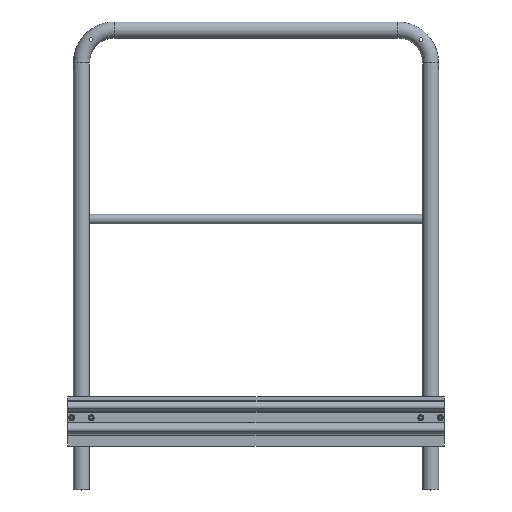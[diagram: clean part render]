
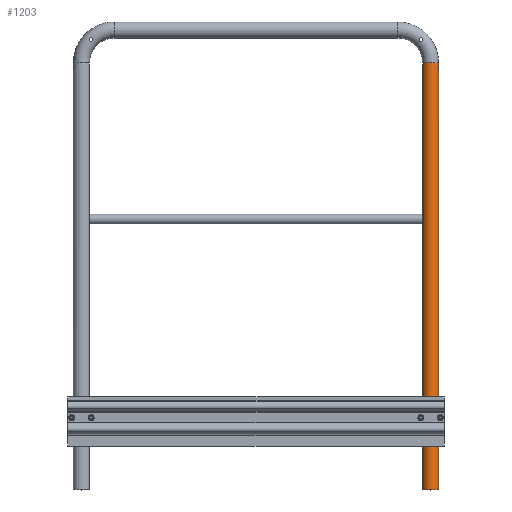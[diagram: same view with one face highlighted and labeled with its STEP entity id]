
A CAD part, top view. The second image highlights one B-rep face of the part: STEP entity #1203.
In plain terms, the highlighted cylindrical face has radius 21.2 mm (diameter 42.4 mm), a full revolution.
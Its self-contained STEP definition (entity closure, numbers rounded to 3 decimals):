
#327=CARTESIAN_POINT('',(902.526,1001.2,5.5));
#328=VERTEX_POINT('',#327);
#329=CARTESIAN_POINT('',(902.526,1001.2,5.5));
#330=CARTESIAN_POINT('',(902.526,1000.506,5.5));
#331=CARTESIAN_POINT('',(902.487,999.768,5.361));
#332=CARTESIAN_POINT('',(902.348,998.414,4.798));
#333=CARTESIAN_POINT('',(902.251,997.797,4.376));
#334=CARTESIAN_POINT('',(902.069,996.824,3.403));
#335=CARTESIAN_POINT('',(901.973,996.402,2.786));
#336=CARTESIAN_POINT('',(901.837,995.839,1.432));
#337=CARTESIAN_POINT('',(901.8,995.7,0.694));
#338=CARTESIAN_POINT('',(901.8,995.7,-0.694));
#339=CARTESIAN_POINT('',(901.837,995.839,-1.432));
#340=CARTESIAN_POINT('',(901.973,996.402,-2.786));
#341=CARTESIAN_POINT('',(902.069,996.824,-3.403));
#342=CARTESIAN_POINT('',(902.251,997.797,-4.376));
#343=CARTESIAN_POINT('',(902.348,998.414,-4.798));
#344=CARTESIAN_POINT('',(902.487,999.768,-5.361));
#345=CARTESIAN_POINT('',(902.526,1000.506,-5.5));
#346=CARTESIAN_POINT('',(902.526,1001.894,-5.5));
#347=CARTESIAN_POINT('',(902.487,1002.632,-5.361));
#348=CARTESIAN_POINT('',(902.348,1003.986,-4.798));
#349=CARTESIAN_POINT('',(902.251,1004.603,-4.376));
#350=CARTESIAN_POINT('',(902.069,1005.576,-3.403));
#351=CARTESIAN_POINT('',(901.973,1005.998,-2.786));
#352=CARTESIAN_POINT('',(901.837,1006.561,-1.432));
#353=CARTESIAN_POINT('',(901.8,1006.7,-0.694));
#354=CARTESIAN_POINT('',(901.8,1006.7,0.694));
#355=CARTESIAN_POINT('',(901.837,1006.561,1.432));
#356=CARTESIAN_POINT('',(901.973,1005.998,2.786));
#357=CARTESIAN_POINT('',(902.069,1005.576,3.403));
#358=CARTESIAN_POINT('',(902.251,1004.603,4.376));
#359=CARTESIAN_POINT('',(902.348,1003.986,4.798));
#360=CARTESIAN_POINT('',(902.487,1002.632,5.361));
#361=CARTESIAN_POINT('',(902.526,1001.894,5.5));
#362=CARTESIAN_POINT('',(902.526,1001.2,5.5));
#363=B_SPLINE_CURVE_WITH_KNOTS('',3,(#329,#330,#331,#332,#333,#334,#335,#336,#337,#338,#339,#340,#341,#342,#343,#344,#345,#346,#347,#348,#349,#350,#351,#352,#353,#354,#355,#356,#357,#358,#359,#360,#361,#362),.UNSPECIFIED.,.T.,.U.,(4,2,2,2,2,2,2,2,2,2,2,2,2,2,2,2,4),(0.0,0.208,0.416,0.625,0.833,1.041,1.249,1.457,1.666,1.874,2.082,2.29,2.498,2.707,2.915,3.123,3.331),.UNSPECIFIED.);
#364=EDGE_CURVE('',#328,#328,#363,.T.);
#456=CARTESIAN_POINT('',(943.474,1001.2,5.5));
#457=VERTEX_POINT('',#456);
#458=CARTESIAN_POINT('',(943.474,1001.2,5.5));
#459=CARTESIAN_POINT('',(943.474,1001.894,5.5));
#460=CARTESIAN_POINT('',(943.513,1002.632,5.361));
#461=CARTESIAN_POINT('',(943.652,1003.986,4.798));
#462=CARTESIAN_POINT('',(943.749,1004.603,4.376));
#463=CARTESIAN_POINT('',(943.931,1005.576,3.403));
#464=CARTESIAN_POINT('',(944.027,1005.998,2.786));
#465=CARTESIAN_POINT('',(944.163,1006.561,1.432));
#466=CARTESIAN_POINT('',(944.2,1006.7,0.694));
#467=CARTESIAN_POINT('',(944.2,1006.7,-0.694));
#468=CARTESIAN_POINT('',(944.163,1006.561,-1.432));
#469=CARTESIAN_POINT('',(944.027,1005.998,-2.786));
#470=CARTESIAN_POINT('',(943.931,1005.576,-3.403));
#471=CARTESIAN_POINT('',(943.749,1004.603,-4.376));
#472=CARTESIAN_POINT('',(943.652,1003.986,-4.798));
#473=CARTESIAN_POINT('',(943.513,1002.632,-5.361));
#474=CARTESIAN_POINT('',(943.474,1001.894,-5.5));
#475=CARTESIAN_POINT('',(943.474,1000.506,-5.5));
#476=CARTESIAN_POINT('',(943.513,999.768,-5.361));
#477=CARTESIAN_POINT('',(943.652,998.414,-4.798));
#478=CARTESIAN_POINT('',(943.749,997.797,-4.376));
#479=CARTESIAN_POINT('',(943.931,996.824,-3.403));
#480=CARTESIAN_POINT('',(944.027,996.402,-2.786));
#481=CARTESIAN_POINT('',(944.163,995.839,-1.432));
#482=CARTESIAN_POINT('',(944.2,995.7,-0.694));
#483=CARTESIAN_POINT('',(944.2,995.7,0.694));
#484=CARTESIAN_POINT('',(944.163,995.839,1.432));
#485=CARTESIAN_POINT('',(944.027,996.402,2.786));
#486=CARTESIAN_POINT('',(943.931,996.824,3.403));
#487=CARTESIAN_POINT('',(943.749,997.797,4.376));
#488=CARTESIAN_POINT('',(943.652,998.414,4.798));
#489=CARTESIAN_POINT('',(943.513,999.768,5.361));
#490=CARTESIAN_POINT('',(943.474,1000.506,5.5));
#491=CARTESIAN_POINT('',(943.474,1001.2,5.5));
#492=B_SPLINE_CURVE_WITH_KNOTS('',3,(#458,#459,#460,#461,#462,#463,#464,#465,#466,#467,#468,#469,#470,#471,#472,#473,#474,#475,#476,#477,#478,#479,#480,#481,#482,#483,#484,#485,#486,#487,#488,#489,#490,#491),.UNSPECIFIED.,.T.,.U.,(4,2,2,2,2,2,2,2,2,2,2,2,2,2,2,2,4),(0.0,0.208,0.416,0.625,0.833,1.041,1.249,1.457,1.666,1.874,2.082,2.29,2.498,2.707,2.915,3.123,3.331),.UNSPECIFIED.);
#493=EDGE_CURVE('',#457,#457,#492,.T.);
#1170=CARTESIAN_POINT('',(923.,1013.5,0.0));
#1171=DIRECTION('',(0.,-1.0,0.0));
#1172=DIRECTION('',(-1.0,0.0,0.0));
#1173=AXIS2_PLACEMENT_3D('',#1170,#1171,#1172);
#1174=CYLINDRICAL_SURFACE('',#1173,21.2);
#1175=CARTESIAN_POINT('',(944.2,-116.,0.));
#1176=VERTEX_POINT('',#1175);
#1177=CARTESIAN_POINT('',(923.,-116.,0.0));
#1178=DIRECTION('',(0.0,1.0,0.0));
#1179=DIRECTION('',(-1.0,0.0,0.0));
#1180=AXIS2_PLACEMENT_3D('',#1177,#1178,#1179);
#1181=CIRCLE('',#1180,21.2);
#1182=EDGE_CURVE('',#1176,#1176,#1181,.T.);
#1183=ORIENTED_EDGE('',*,*,#1182,.T.);
#1184=EDGE_LOOP('',(#1183));
#1185=FACE_OUTER_BOUND('',#1184,.T.);
#1186=ORIENTED_EDGE('',*,*,#493,.T.);
#1187=EDGE_LOOP('',(#1186));
#1188=FACE_BOUND('',#1187,.T.);
#1189=ORIENTED_EDGE('',*,*,#364,.T.);
#1190=EDGE_LOOP('',(#1189));
#1191=FACE_BOUND('',#1190,.T.);
#1192=CARTESIAN_POINT('',(944.2,1013.5,0.));
#1193=VERTEX_POINT('',#1192);
#1194=CARTESIAN_POINT('',(923.,1013.5,0.0));
#1195=DIRECTION('',(0.0,1.0,0.0));
#1196=DIRECTION('',(-1.0,0.0,0.0));
#1197=AXIS2_PLACEMENT_3D('',#1194,#1195,#1196);
#1198=CIRCLE('',#1197,21.2);
#1199=EDGE_CURVE('',#1193,#1193,#1198,.T.);
#1200=ORIENTED_EDGE('',*,*,#1199,.F.);
#1201=EDGE_LOOP('',(#1200));
#1202=FACE_BOUND('',#1201,.T.);
#1203=ADVANCED_FACE('',(#1185,#1188,#1191,#1202),#1174,.T.);
